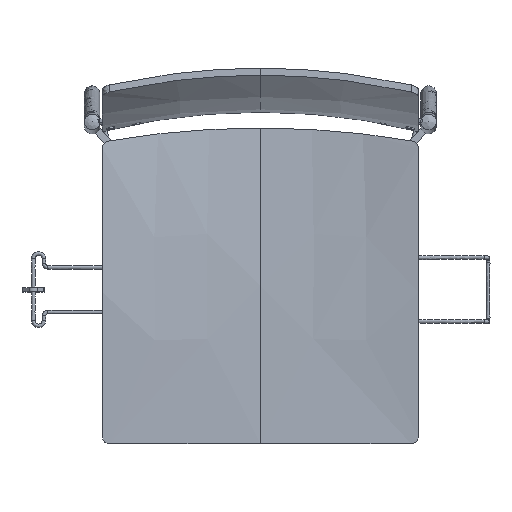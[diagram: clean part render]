
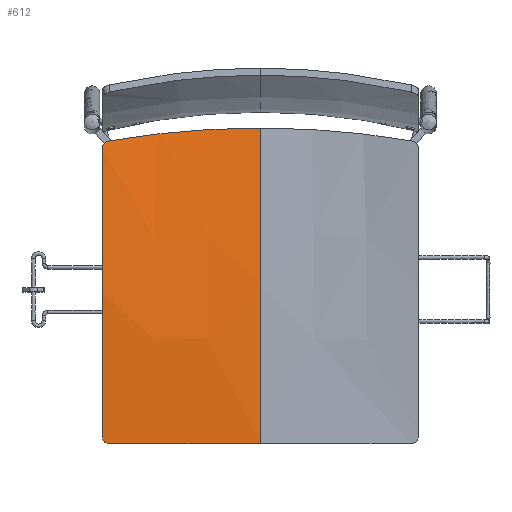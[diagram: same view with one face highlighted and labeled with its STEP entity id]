
A CAD part, top view. The second image highlights one B-rep face of the part: STEP entity #612.
In plain terms, the highlighted free-form (B-spline) face has degree [3, 3] with [6, 6] control points.
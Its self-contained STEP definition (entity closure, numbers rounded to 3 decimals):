
#19=B_SPLINE_SURFACE_WITH_KNOTS('',3,3,((#7206,#7207,#7208,#7209,#7210,
#7211),(#7212,#7213,#7214,#7215,#7216,#7217),(#7218,#7219,#7220,#7221,#7222,
#7223),(#7224,#7225,#7226,#7227,#7228,#7229),(#7230,#7231,#7232,#7233,#7234,
#7235),(#7236,#7237,#7238,#7239,#7240,#7241)),.UNSPECIFIED.,.F.,.F.,.F.,
(4,1,1,4),(4,1,1,4),(0.,145.508,291.016,436.96),
(224.697,299.522,374.346,449.395),
 .UNSPECIFIED.);
#84=B_SPLINE_CURVE_WITH_KNOTS('',3,(#7390,#7391,#7392,#7393,#7394,#7395),
 .UNSPECIFIED.,.F.,.F.,(4,1,1,4),(-436.523,-291.016,-145.508,
0.),.UNSPECIFIED.);
#87=B_SPLINE_CURVE_WITH_KNOTS('',1,(#7412,#7413),.UNSPECIFIED.,.F.,.F.,
(2,2),(-435.,-222.5),.UNSPECIFIED.);
#94=B_SPLINE_CURVE_WITH_KNOTS('',3,(#7444,#7445,#7446,#7447,#7448,#7449,
#7450,#7451,#7452,#7453,#7454,#7455,#7456,#7457,#7458,#7459,#7460,#7461,
#7462,#7463),.UNSPECIFIED.,.F.,.F.,(4,1,1,1,1,1,1,1,1,1,1,1,1,1,1,1,1,4),
(-14.341,-13.544,-12.725,-11.889,
-11.037,-10.171,-9.297,-8.416,
-7.533,-6.651,-5.773,-4.903,
-4.045,-3.2,-2.371,-1.56,
-0.77,0.),.UNSPECIFIED.);
#96=B_SPLINE_CURVE_WITH_KNOTS('',3,(#7484,#7485,#7486,#7487,#7488,#7489,
#7490,#7491,#7492,#7493,#7494,#7495,#7496,#7497,#7498,#7499,#7500,#7501,
#7502,#7503),.UNSPECIFIED.,.F.,.F.,(4,1,1,1,1,1,1,1,1,1,1,1,1,1,1,1,1,4),
(0.,0.846,1.719,2.616,3.536,
4.474,5.428,6.393,7.365,8.339,
9.311,10.276,11.229,12.168,13.087,
13.985,14.857,15.703),.UNSPECIFIED.);
#612=ADVANCED_FACE('',(#799),#19,.T.);
#799=FACE_OUTER_BOUND('',#990,.T.);
#990=EDGE_LOOP('',(#1401,#1402,#1403,#1404,#1405,#1406));
#1401=ORIENTED_EDGE('',*,*,#1970,.T.);
#1402=ORIENTED_EDGE('',*,*,#1963,.F.);
#1403=ORIENTED_EDGE('',*,*,#1966,.T.);
#1404=ORIENTED_EDGE('',*,*,#1977,.T.);
#1405=ORIENTED_EDGE('',*,*,#1969,.T.);
#1406=ORIENTED_EDGE('',*,*,#1979,.T.);
#1963=EDGE_CURVE('',#2488,#2489,#84,.T.);
#1966=EDGE_CURVE('',#2488,#2495,#2322,.T.);
#1969=EDGE_CURVE('',#2493,#2492,#2324,.T.);
#1970=EDGE_CURVE('',#2496,#2489,#87,.T.);
#1977=EDGE_CURVE('',#2495,#2493,#94,.T.);
#1979=EDGE_CURVE('',#2492,#2496,#96,.T.);
#2322=(
BOUNDED_CURVE()
B_SPLINE_CURVE(2,(#7401,#7402,#7403),.UNSPECIFIED.,.F.,.F.)
B_SPLINE_CURVE_WITH_KNOTS((3,3),(-226.906,-8.747),
 .UNSPECIFIED.)
CURVE()
GEOMETRIC_REPRESENTATION_ITEM()
RATIONAL_B_SPLINE_CURVE((1.,0.986,1.))
REPRESENTATION_ITEM('')
);
#2324=(
BOUNDED_CURVE()
B_SPLINE_CURVE(2,(#7409,#7410,#7411),.UNSPECIFIED.,.F.,.F.)
B_SPLINE_CURVE_WITH_KNOTS((3,3),(-417.08,-10.001),
 .UNSPECIFIED.)
CURVE()
GEOMETRIC_REPRESENTATION_ITEM()
RATIONAL_B_SPLINE_CURVE((1.,0.999,1.))
REPRESENTATION_ITEM('')
);
#2488=VERTEX_POINT('',#7366);
#2489=VERTEX_POINT('',#7367);
#2492=VERTEX_POINT('',#7370);
#2493=VERTEX_POINT('',#7371);
#2495=VERTEX_POINT('',#7373);
#2496=VERTEX_POINT('',#7374);
#7206=CARTESIAN_POINT('',(0.,-257.5,438.92));
#7207=CARTESIAN_POINT('',(-24.722,-257.5,438.92));
#7208=CARTESIAN_POINT('',(-74.167,-257.5,438.92));
#7209=CARTESIAN_POINT('',(-148.408,-257.5,438.92));
#7210=CARTESIAN_POINT('',(-197.926,-257.5,438.92));
#7211=CARTESIAN_POINT('',(-222.723,-257.5,438.92));
#7212=CARTESIAN_POINT('',(0.,-207.832,436.162));
#7213=CARTESIAN_POINT('',(-24.777,-207.832,436.162));
#7214=CARTESIAN_POINT('',(-74.33,-208.011,436.425));
#7215=CARTESIAN_POINT('',(-148.624,-208.818,437.601));
#7216=CARTESIAN_POINT('',(-198.035,-209.708,438.899));
#7217=CARTESIAN_POINT('',(-222.722,-210.238,439.672));
#7218=CARTESIAN_POINT('',(0.,-108.594,428.907));
#7219=CARTESIAN_POINT('',(-24.886,-108.594,428.907));
#7220=CARTESIAN_POINT('',(-74.656,-109.124,429.702));
#7221=CARTESIAN_POINT('',(-149.058,-111.501,433.268));
#7222=CARTESIAN_POINT('',(-198.254,-114.126,437.2));
#7223=CARTESIAN_POINT('',(-222.72,-115.691,439.543));
#7224=CARTESIAN_POINT('',(0.,39.995,412.796));
#7225=CARTESIAN_POINT('',(-25.049,39.995,412.796));
#7226=CARTESIAN_POINT('',(-75.146,38.966,414.415));
#7227=CARTESIAN_POINT('',(-149.709,34.355,421.67));
#7228=CARTESIAN_POINT('',(-198.582,29.265,429.675));
#7229=CARTESIAN_POINT('',(-222.717,26.231,434.444));
#7230=CARTESIAN_POINT('',(0.,138.607,398.59));
#7231=CARTESIAN_POINT('',(-25.158,138.607,398.59));
#7232=CARTESIAN_POINT('',(-75.473,137.266,400.772));
#7233=CARTESIAN_POINT('',(-150.143,131.254,410.553));
#7234=CARTESIAN_POINT('',(-198.801,124.619,421.343));
#7235=CARTESIAN_POINT('',(-222.715,120.665,427.774));
#7236=CARTESIAN_POINT('',(0.,187.851,390.612));
#7237=CARTESIAN_POINT('',(-25.213,187.851,390.612));
#7238=CARTESIAN_POINT('',(-75.637,186.359,393.079));
#7239=CARTESIAN_POINT('',(-150.361,179.667,404.14));
#7240=CARTESIAN_POINT('',(-198.911,172.284,416.343));
#7241=CARTESIAN_POINT('',(-222.714,167.884,423.616));
#7366=CARTESIAN_POINT('',(0.,187.409,390.683));
#7367=CARTESIAN_POINT('',(0.,-257.5,438.92));
#7370=CARTESIAN_POINT('',(-222.5,-247.5,439.066));
#7371=CARTESIAN_POINT('',(-222.5,159.145,424.316));
#7373=CARTESIAN_POINT('',(-214.241,168.992,421.123));
#7374=CARTESIAN_POINT('',(-212.5,-257.5,438.92));
#7390=CARTESIAN_POINT('',(0.,187.409,390.683));
#7391=CARTESIAN_POINT('',(0.,138.312,398.633));
#7392=CARTESIAN_POINT('',(0.,39.846,412.812));
#7393=CARTESIAN_POINT('',(0.,-108.594,428.907));
#7394=CARTESIAN_POINT('',(0.,-207.832,436.162));
#7395=CARTESIAN_POINT('',(0.,-257.5,438.92));
#7401=CARTESIAN_POINT('',(0.,187.409,390.683));
#7402=CARTESIAN_POINT('',(-110.075,187.409,390.683));
#7403=CARTESIAN_POINT('',(-214.241,168.992,421.123));
#7409=CARTESIAN_POINT('',(-222.5,159.145,424.316));
#7410=CARTESIAN_POINT('',(-222.5,-43.812,441.779));
#7411=CARTESIAN_POINT('',(-222.5,-247.5,439.066));
#7412=CARTESIAN_POINT('',(-212.5,-257.5,438.92));
#7413=CARTESIAN_POINT('',(0.,-257.5,438.92));
#7444=CARTESIAN_POINT('',(-214.241,168.992,421.123));
#7445=CARTESIAN_POINT('',(-214.493,168.947,421.196));
#7446=CARTESIAN_POINT('',(-214.999,168.838,421.346));
#7447=CARTESIAN_POINT('',(-215.751,168.612,421.576));
#7448=CARTESIAN_POINT('',(-216.499,168.322,421.811));
#7449=CARTESIAN_POINT('',(-217.236,167.965,422.05));
#7450=CARTESIAN_POINT('',(-217.951,167.542,422.289));
#7451=CARTESIAN_POINT('',(-218.637,167.055,422.526));
#7452=CARTESIAN_POINT('',(-219.286,166.506,422.759));
#7453=CARTESIAN_POINT('',(-219.888,165.901,422.984));
#7454=CARTESIAN_POINT('',(-220.438,165.246,423.198));
#7455=CARTESIAN_POINT('',(-220.929,164.547,423.399));
#7456=CARTESIAN_POINT('',(-221.357,163.813,423.585));
#7457=CARTESIAN_POINT('',(-221.718,163.052,423.755));
#7458=CARTESIAN_POINT('',(-222.01,162.274,423.906));
#7459=CARTESIAN_POINT('',(-222.233,161.486,424.038));
#7460=CARTESIAN_POINT('',(-222.389,160.698,424.15));
#7461=CARTESIAN_POINT('',(-222.48,159.918,424.243));
#7462=CARTESIAN_POINT('',(-222.5,159.4,424.294));
#7463=CARTESIAN_POINT('',(-222.5,159.145,424.316));
#7484=CARTESIAN_POINT('',(-222.5,-247.5,439.066));
#7485=CARTESIAN_POINT('',(-222.5,-247.782,439.062));
#7486=CARTESIAN_POINT('',(-222.476,-248.355,439.054));
#7487=CARTESIAN_POINT('',(-222.364,-249.221,439.042));
#7488=CARTESIAN_POINT('',(-222.171,-250.097,439.029));
#7489=CARTESIAN_POINT('',(-221.892,-250.974,439.015));
#7490=CARTESIAN_POINT('',(-221.526,-251.838,439.002));
#7491=CARTESIAN_POINT('',(-221.073,-252.677,438.989));
#7492=CARTESIAN_POINT('',(-220.535,-253.479,438.977));
#7493=CARTESIAN_POINT('',(-219.918,-254.229,438.965));
#7494=CARTESIAN_POINT('',(-219.229,-254.918,438.955));
#7495=CARTESIAN_POINT('',(-218.479,-255.535,438.946));
#7496=CARTESIAN_POINT('',(-217.678,-256.073,438.938));
#7497=CARTESIAN_POINT('',(-216.838,-256.526,438.932));
#7498=CARTESIAN_POINT('',(-215.974,-256.892,438.927));
#7499=CARTESIAN_POINT('',(-215.098,-257.171,438.924));
#7500=CARTESIAN_POINT('',(-214.221,-257.364,438.922));
#7501=CARTESIAN_POINT('',(-213.355,-257.476,438.921));
#7502=CARTESIAN_POINT('',(-212.782,-257.5,438.92));
#7503=CARTESIAN_POINT('',(-212.5,-257.5,438.92));
